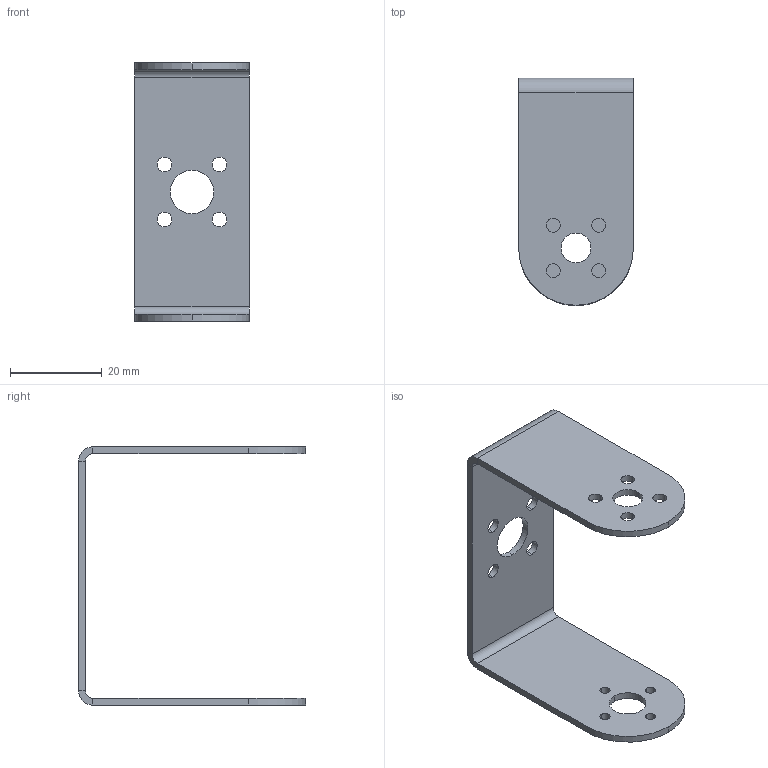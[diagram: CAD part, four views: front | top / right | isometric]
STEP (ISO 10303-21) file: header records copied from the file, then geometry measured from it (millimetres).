
FILE_DESCRIPTION (( 'STEP AP214' ), '1' );
FILE_NAME ('30x Bracket B.STEP', '2024-02-28T20:40:54', ( '' ), ( '' ), 'SwSTEP 2.0', 'SolidWorks 2023', '' );
FILE_SCHEMA (( 'AUTOMOTIVE_DESIGN' ));
Length unit declared in the file: millimetre
Products named in the file (1): 30x Bracket B
Bounding box: 25 x 49.5 x 56.3 mm (x, y, z)
Volume: 5087.8 mm3; surface area: 7548.7 mm2
Topology: 1 solids, 1 shells, 54 faces, 140 edges, 88 vertices
Faces by surface type: cylinder 38, plane 16
Entity records: 1755 total; most frequent: DIRECTION 326, CARTESIAN_POINT 283, ORIENTED_EDGE 280, EDGE_CURVE 140, AXIS2_PLACEMENT_3D 131, VERTEX_POINT 88, EDGE_LOOP 84, CIRCLE 76
